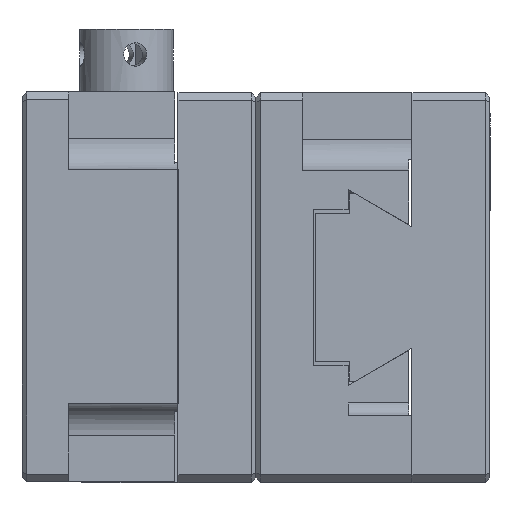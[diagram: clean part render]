
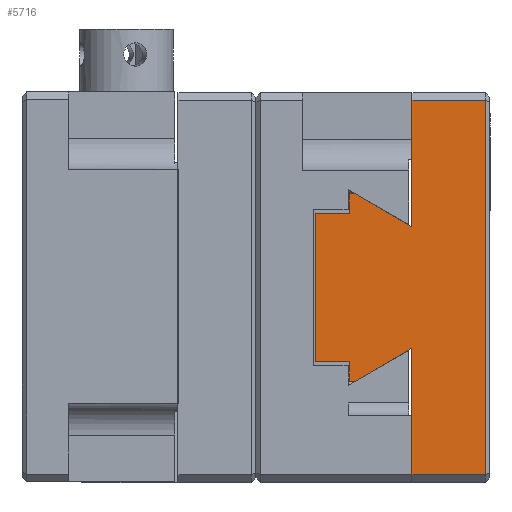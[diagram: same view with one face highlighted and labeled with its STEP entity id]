
A CAD part, left-side view. The second image highlights one B-rep face of the part: STEP entity #5716.
In plain terms, the highlighted planar face has unit normal (-1, 0, 0).
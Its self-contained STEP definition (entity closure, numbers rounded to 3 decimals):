
#79 = LINE ( 'NONE', #5657, #5196 ) ;
#100 = ORIENTED_EDGE ( 'NONE', *, *, #4171, .F. ) ;
#180 = CARTESIAN_POINT ( 'NONE',  ( 0., -8.7, 22.892 ) ) ;
#308 = VECTOR ( 'NONE', #4704, 1000. ) ;
#313 = CARTESIAN_POINT ( 'NONE',  ( 0., -4., 14.792 ) ) ;
#340 = ORIENTED_EDGE ( 'NONE', *, *, #2077, .F. ) ;
#437 = DIRECTION ( 'NONE',  ( 0., -1., 0. ) ) ;
#498 = CARTESIAN_POINT ( 'NONE',  ( 0., -4., 6.992 ) ) ;
#502 = VERTEX_POINT ( 'NONE', #6630 ) ;
#544 = EDGE_CURVE ( 'NONE', #5974, #7579, #4600, .T. ) ;
#598 = LINE ( 'NONE', #4855, #2598 ) ;
#1112 = CARTESIAN_POINT ( 'NONE',  ( 0., 0., 15.642 ) ) ;
#1132 = LINE ( 'NONE', #6720, #1859 ) ;
#1317 = CARTESIAN_POINT ( 'NONE',  ( 0., 0., 22.892 ) ) ;
#1347 = CARTESIAN_POINT ( 'NONE',  ( 0., -4., 6.992 ) ) ;
#1362 = DIRECTION ( 'NONE',  ( 0., 0., 1. ) ) ;
#1412 = CARTESIAN_POINT ( 'NONE',  ( 0., 0., 17.102 ) ) ;
#1447 = DIRECTION ( 'NONE',  ( 0., 1., 0. ) ) ;
#1526 = EDGE_CURVE ( 'NONE', #502, #6212, #9046, .T. ) ;
#1740 = CARTESIAN_POINT ( 'NONE',  ( 0., -4., 14.792 ) ) ;
#1782 = LINE ( 'NONE', #5078, #3467 ) ;
#1805 = ORIENTED_EDGE ( 'NONE', *, *, #544, .F. ) ;
#1859 = VECTOR ( 'NONE', #437, 1000. ) ;
#1872 = ORIENTED_EDGE ( 'NONE', *, *, #6353, .F. ) ;
#1969 = VECTOR ( 'NONE', #8460, 1000. ) ;
#1991 = VECTOR ( 'NONE', #8143, 1000. ) ;
#2077 = EDGE_CURVE ( 'NONE', #3532, #502, #8232, .T. ) ;
#2207 = LINE ( 'NONE', #1112, #5943 ) ;
#2252 = PLANE ( 'NONE',  #5349 ) ;
#2334 = ORIENTED_EDGE ( 'NONE', *, *, #6289, .T. ) ;
#2493 = ORIENTED_EDGE ( 'NONE', *, *, #1526, .F. ) ;
#2598 = VECTOR ( 'NONE', #6193, 1000. ) ;
#2643 = VECTOR ( 'NONE', #1447, 1000. ) ;
#2717 = VERTEX_POINT ( 'NONE', #3438 ) ;
#2831 = DIRECTION ( 'NONE',  ( 1., 0., 0. ) ) ;
#2846 = CARTESIAN_POINT ( 'NONE',  ( 0., -0.346, 16.902 ) ) ;
#2880 = CARTESIAN_POINT ( 'NONE',  ( 0., -8.7, -1.108 ) ) ;
#2884 = LINE ( 'NONE', #6431, #5356 ) ;
#2965 = EDGE_LOOP ( 'NONE', ( #2334, #5269, #8339, #1805, #5650, #5572, #100, #4419, #4789, #3692, #1872, #2493, #340, #7374 ) ) ;
#3331 = LINE ( 'NONE', #6836, #6532 ) ;
#3377 = EDGE_CURVE ( 'NONE', #5033, #8523, #1782, .T. ) ;
#3438 = CARTESIAN_POINT ( 'NONE',  ( 0., -4., -1.108 ) ) ;
#3467 = VECTOR ( 'NONE', #3781, 1000. ) ;
#3532 = VERTEX_POINT ( 'NONE', #1347 ) ;
#3590 = LINE ( 'NONE', #1412, #1969 ) ;
#3692 = ORIENTED_EDGE ( 'NONE', *, *, #8934, .T. ) ;
#3781 = DIRECTION ( 'NONE',  ( 0., -1., 0. ) ) ;
#3839 = DIRECTION ( 'NONE',  ( 0., 1., 0. ) ) ;
#4154 = VECTOR ( 'NONE', #1362, 1000. ) ;
#4171 = EDGE_CURVE ( 'NONE', #4207, #5033, #598, .T. ) ;
#4176 = CARTESIAN_POINT ( 'NONE',  ( 0., -4., 4.883 ) ) ;
#4207 = VERTEX_POINT ( 'NONE', #6974 ) ;
#4288 = CARTESIAN_POINT ( 'NONE',  ( 0., 0., 6.142 ) ) ;
#4419 = ORIENTED_EDGE ( 'NONE', *, *, #5757, .T. ) ;
#4600 = LINE ( 'NONE', #313, #5670 ) ;
#4704 = DIRECTION ( 'NONE',  ( 0., 0.866, -0.5 ) ) ;
#4721 = CARTESIAN_POINT ( 'NONE',  ( 0., -4., 22.892 ) ) ;
#4789 = ORIENTED_EDGE ( 'NONE', *, *, #6138, .T. ) ;
#4843 = LINE ( 'NONE', #7652, #4154 ) ;
#4855 = CARTESIAN_POINT ( 'NONE',  ( 0., 0., -1.608 ) ) ;
#4883 = EDGE_CURVE ( 'NONE', #7052, #7579, #8229, .T. ) ;
#5033 = VERTEX_POINT ( 'NONE', #7308 ) ;
#5039 = DIRECTION ( 'NONE',  ( 0., 0., -1. ) ) ;
#5078 = CARTESIAN_POINT ( 'NONE',  ( 0., -4., 16.902 ) ) ;
#5089 = EDGE_CURVE ( 'NONE', #7813, #7052, #79, .T. ) ;
#5196 = VECTOR ( 'NONE', #6400, 1000. ) ;
#5269 = ORIENTED_EDGE ( 'NONE', *, *, #5089, .T. ) ;
#5349 = AXIS2_PLACEMENT_3D ( 'NONE', #8428, #2831, #5039 ) ;
#5356 = VECTOR ( 'NONE', #7848, 1000. ) ;
#5482 = VECTOR ( 'NONE', #8917, 1000. ) ;
#5572 = ORIENTED_EDGE ( 'NONE', *, *, #3377, .F. ) ;
#5650 = ORIENTED_EDGE ( 'NONE', *, *, #6486, .F. ) ;
#5657 = CARTESIAN_POINT ( 'NONE',  ( 0., -8.7, 22.892 ) ) ;
#5670 = VECTOR ( 'NONE', #8727, 1000. ) ;
#5716 = ADVANCED_FACE ( 'NONE', ( #8519 ), #2252, .F. ) ;
#5757 = EDGE_CURVE ( 'NONE', #4207, #7248, #2207, .T. ) ;
#5943 = VECTOR ( 'NONE', #3839, 1000. ) ;
#5974 = VERTEX_POINT ( 'NONE', #1740 ) ;
#6031 = CARTESIAN_POINT ( 'NONE',  ( 0., 0., 4.883 ) ) ;
#6138 = EDGE_CURVE ( 'NONE', #7248, #7728, #8097, .T. ) ;
#6193 = DIRECTION ( 'NONE',  ( 0., 0., 1. ) ) ;
#6212 = VERTEX_POINT ( 'NONE', #6031 ) ;
#6289 = EDGE_CURVE ( 'NONE', #2717, #7813, #1132, .T. ) ;
#6353 = EDGE_CURVE ( 'NONE', #6212, #6652, #3331, .T. ) ;
#6400 = DIRECTION ( 'NONE',  ( 0., 0., 1. ) ) ;
#6431 = CARTESIAN_POINT ( 'NONE',  ( 0., 0., 6.142 ) ) ;
#6485 = EDGE_CURVE ( 'NONE', #2717, #3532, #4843, .T. ) ;
#6486 = EDGE_CURVE ( 'NONE', #8523, #5974, #3590, .T. ) ;
#6532 = VECTOR ( 'NONE', #8338, 1000. ) ;
#6630 = CARTESIAN_POINT ( 'NONE',  ( 0., -0.346, 4.883 ) ) ;
#6652 = VERTEX_POINT ( 'NONE', #4288 ) ;
#6720 = CARTESIAN_POINT ( 'NONE',  ( 0., 0., -1.108 ) ) ;
#6836 = CARTESIAN_POINT ( 'NONE',  ( 0., 0., -1.608 ) ) ;
#6974 = CARTESIAN_POINT ( 'NONE',  ( 0., 0., 15.642 ) ) ;
#7034 = CARTESIAN_POINT ( 'NONE',  ( 0., 2.2, 15.642 ) ) ;
#7052 = VERTEX_POINT ( 'NONE', #180 ) ;
#7248 = VERTEX_POINT ( 'NONE', #7034 ) ;
#7308 = CARTESIAN_POINT ( 'NONE',  ( 0., 0., 16.902 ) ) ;
#7374 = ORIENTED_EDGE ( 'NONE', *, *, #6485, .F. ) ;
#7579 = VERTEX_POINT ( 'NONE', #4721 ) ;
#7652 = CARTESIAN_POINT ( 'NONE',  ( 0., -4., -1.608 ) ) ;
#7728 = VERTEX_POINT ( 'NONE', #8611 ) ;
#7813 = VERTEX_POINT ( 'NONE', #2880 ) ;
#7848 = DIRECTION ( 'NONE',  ( 0., -1., 0. ) ) ;
#8097 = LINE ( 'NONE', #8188, #1991 ) ;
#8143 = DIRECTION ( 'NONE',  ( 0., 0., -1. ) ) ;
#8188 = CARTESIAN_POINT ( 'NONE',  ( 0., 2.2, 6.142 ) ) ;
#8229 = LINE ( 'NONE', #1317, #5482 ) ;
#8232 = LINE ( 'NONE', #498, #308 ) ;
#8338 = DIRECTION ( 'NONE',  ( 0., 0., 1. ) ) ;
#8339 = ORIENTED_EDGE ( 'NONE', *, *, #4883, .T. ) ;
#8428 = CARTESIAN_POINT ( 'NONE',  ( 0., 0., -1.608 ) ) ;
#8460 = DIRECTION ( 'NONE',  ( 0., -0.866, -0.5 ) ) ;
#8519 = FACE_OUTER_BOUND ( 'NONE', #2965, .T. ) ;
#8523 = VERTEX_POINT ( 'NONE', #2846 ) ;
#8611 = CARTESIAN_POINT ( 'NONE',  ( 0., 2.2, 6.142 ) ) ;
#8727 = DIRECTION ( 'NONE',  ( 0., 0., 1. ) ) ;
#8917 = DIRECTION ( 'NONE',  ( 0., 1., 0. ) ) ;
#8934 = EDGE_CURVE ( 'NONE', #7728, #6652, #2884, .T. ) ;
#9046 = LINE ( 'NONE', #4176, #2643 ) ;
